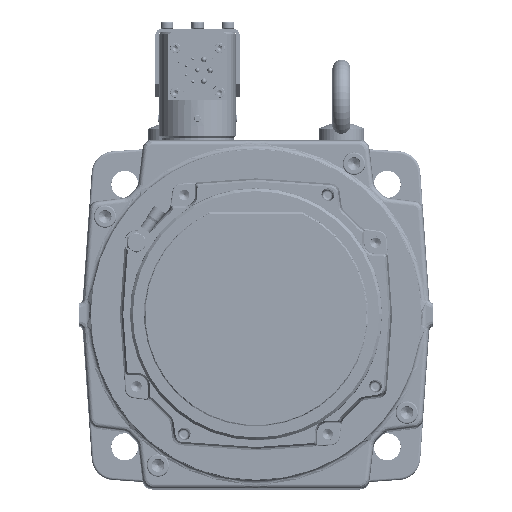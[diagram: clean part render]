
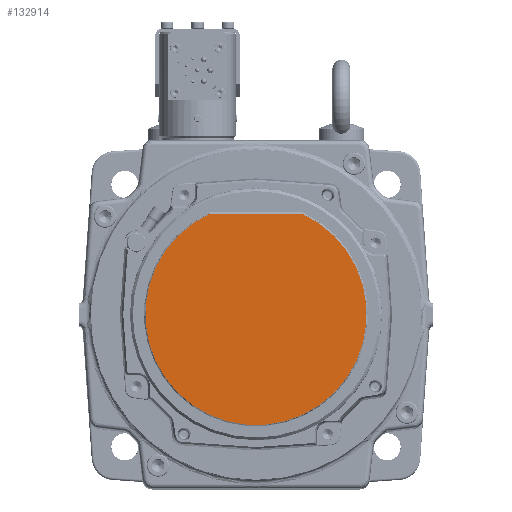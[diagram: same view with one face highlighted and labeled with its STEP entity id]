
A CAD part, top view. The second image highlights one B-rep face of the part: STEP entity #132914.
In plain terms, the highlighted planar face has unit normal (0, 0, 1).
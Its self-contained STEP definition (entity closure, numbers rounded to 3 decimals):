
#124415=CARTESIAN_POINT('',(0.,0.,63.9));
#124416=DIRECTION('',(0.,0.,-1.));
#124417=DIRECTION('',(0.418,0.908,0.));
#124418=AXIS2_PLACEMENT_3D('',#124415,#124416,#124417);
#124427=DIRECTION('',(-1.,0.,0.));
#124428=VECTOR('',#124427,41.125);
#124429=CARTESIAN_POINT('',(20.562,44.7,63.9));
#124430=LINE('',#124429,#124428);
#125105=CARTESIAN_POINT('',(20.562,44.7,63.9));
#125106=CARTESIAN_POINT('',(-20.562,44.7,63.9));
#125107=VERTEX_POINT('',#125105);
#125108=VERTEX_POINT('',#125106);
#132905=CARTESIAN_POINT('',(0.,0.,63.9));
#132906=DIRECTION('',(0.,0.,1.));
#132907=DIRECTION('',(1.,0.,0.));
#132908=AXIS2_PLACEMENT_3D('',#132905,#132906,#132907);
#132909=PLANE('',#132908);
#132910=ORIENTED_EDGE('',*,*,#132884,.T.);
#132911=ORIENTED_EDGE('',*,*,#132896,.F.);
#132912=EDGE_LOOP('',(#132910,#132911));
#132913=FACE_OUTER_BOUND('',#132912,.F.);
#132914=ADVANCED_FACE('',(#132913),#132909,.T.);
#124419=CIRCLE('',#124418,49.203);
#132884=EDGE_CURVE('',#125107,#125108,#124419,.T.);
#132896=EDGE_CURVE('',#125107,#125108,#124430,.T.);
